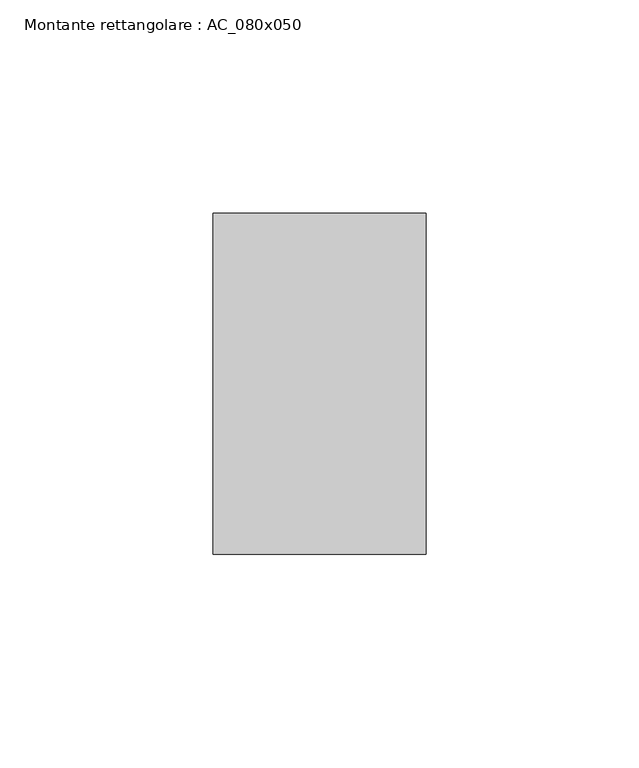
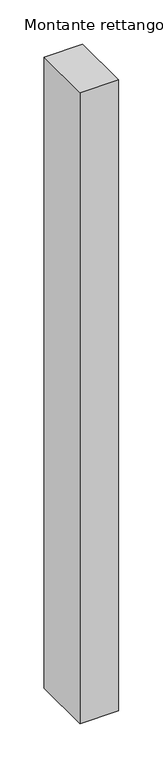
"""IFC4 building model written with IfcOpenShell, lengths in millimetres: member geometry, Montante rettangolare : AC_080x050."""

from ifc_helpers import new_model, si_unit, frame, origin, place, context, project, spatial, polyline, outline, extrude, source, transform, mapped, element, save


def montante_rettangolare_ac_080x050_642f358e(model_context):
    return source(origin(), model_context, "Body", "SweptSolid", [
        extrude(outline(polyline([(0.0, 40.0), (0.0, -40.0), (-50.0, -40.0), (-50.0, 40.0), (0.0, 40.0)])), frame((0.0, 0.0, -866.0), z_axis=(0.0, 0.0, 1.0), x_axis=(1.0, 0.0, 0.0)), (0.0, 0.0, 1.0), 866.0),
    ])


if __name__ == "__main__":
    model = new_model("IFC4")
    model_context = context("Model", 3, world=origin())
    ifc_project = project(units=[si_unit("LENGTHUNIT", "METRE", prefix="MILLI")], contexts=[model_context])
    site = spatial("IfcSite", under=ifc_project)
    building = spatial("IfcBuilding", under=site)
    placement = place(None, origin())
    montante_rettangolare_ac_080x050_shape = montante_rettangolare_ac_080x050_642f358e(model_context)
    element("IfcMember", 1, ObjectType="Montante rettangolare : AC_080x050", at=placement, inside=building, context=model_context, shape_type="MappedRepresentation", body=[
        mapped(montante_rettangolare_ac_080x050_shape, transform((0.0, 0.0, 0.0), x_axis=(1.0, 0.0, 0.0), y_axis=(0.0, 1.0, 0.0), z_axis=(0.0, 0.0, 1.0))),
    ])
    save(model, "model.ifc")
